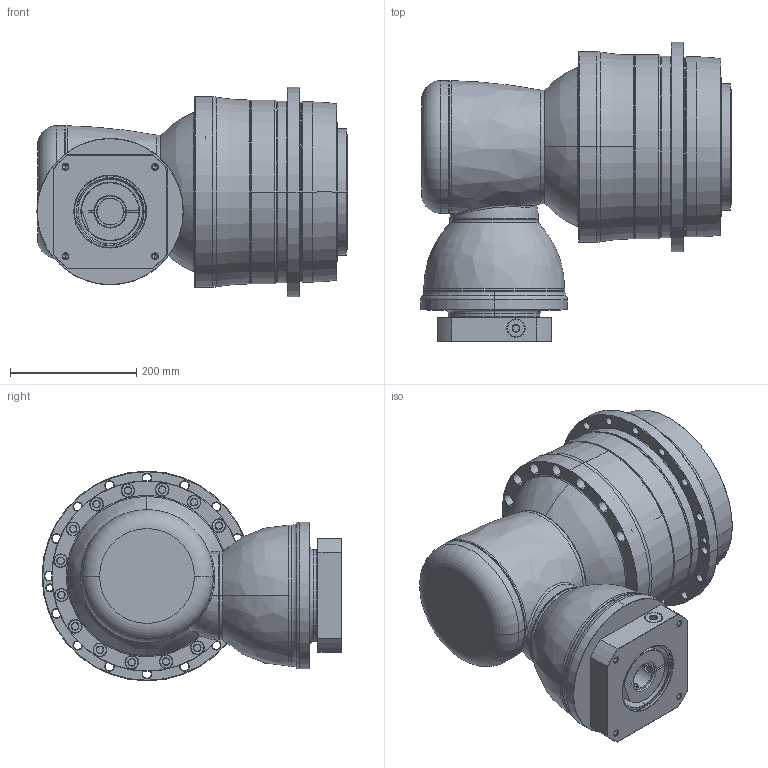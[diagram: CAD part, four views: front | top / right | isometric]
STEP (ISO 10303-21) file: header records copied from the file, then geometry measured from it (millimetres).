
FILE_DESCRIPTION((''),'2;1');
FILE_NAME('AHKA285_3ST_42-P0409A00101_ASM','2016-12-06T',('d01943'),(''),'PRO/ENGINEER BY PARAMETRIC TECHNOLOGY CORPORATION, 2008410','PRO/ENGINEER BY PARAMETRIC TECHNOLOGY CORPORATION, 2008410','');
FILE_SCHEMA(('CONFIG_CONTROL_DESIGN'));
Length unit declared in the file: millimetre
Products named in the file (12): P1008600002; P1832800001; P0278800003; P0359800003; P1315600001; P1007600001; P1318600301; P0409A00101; P0503A00012; P0912603001; 21711422019; AHKA285_3ST_42-P0409A00101_ASM
Assembly tree (11 placements, depth 2):
  AHKA285_3ST_42-P0409A00101_ASM
    P1008600002
    P1832800001
    P0278800003
    P0359800003
    P1315600001
    P1007600001
    P1318600301
    P0409A00101
    P0503A00012
    P0912603001
    21711422019
Bounding box: 491 x 474.5 x 332 mm (x, y, z)
Volume: 22346539.3 mm3; surface area: 1655223.2 mm2
Topology: 12 solids, 12 shells, 1079 faces, 2423 edges, 1398 vertices
Faces by surface type: cone 382, cylinder 376, plane 146, torus 136, bspline 37, sphere 2
Entity records: 36476 total; most frequent: CARTESIAN_POINT 11804, DIRECTION 5688, ORIENTED_EDGE 4706, AXIS2_PLACEMENT_3D 2429, EDGE_CURVE 2353, VERTEX_POINT 1398, CIRCLE 1364, EDGE_LOOP 1275
